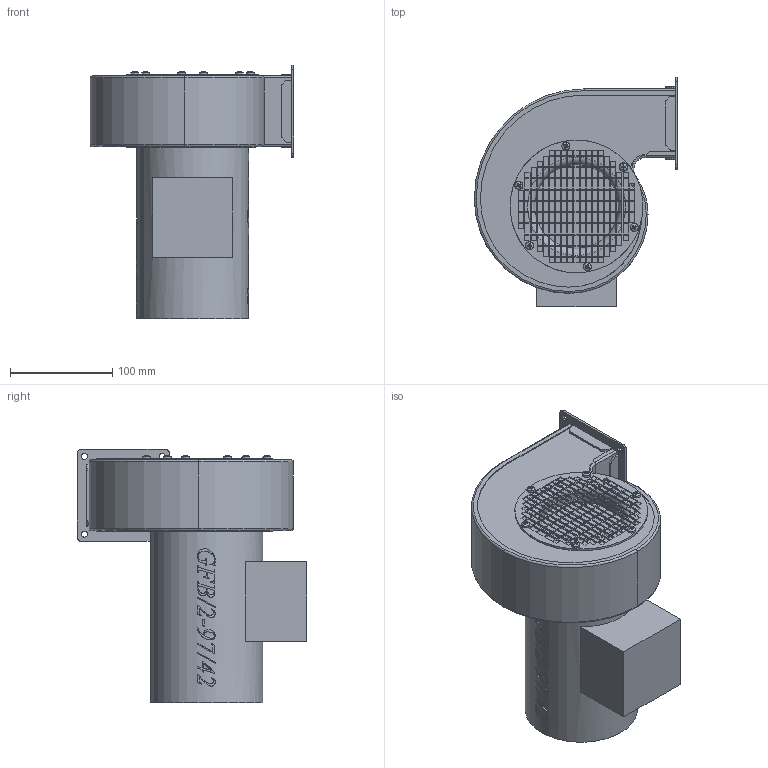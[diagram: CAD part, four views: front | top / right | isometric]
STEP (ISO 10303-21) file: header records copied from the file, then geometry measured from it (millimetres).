
FILE_DESCRIPTION(/* description */ (''),/* implementation_level */ '2;1');
FILE_NAME(/* name */ 'E:\Mariusz\Modele uproszczone\GFB\GFB_2_97_42 LG270 45030020\GFB_2_97_42 LG270 45030020\GFB_2_97_42 LG270 45030020.stp',/* time_stamp */ '2019-01-10T11:39:48+01:00',/* author */ ('M.Janczarek'),/* organization */ (''),/* preprocessor_version */ 'ST-DEVELOPER v16.13',/* originating_system */ 'Autodesk Inventor 2018',/* authorisation */ '');
FILE_SCHEMA (('AUTOMOTIVE_DESIGN { 1 0 10303 214 3 1 1 }'));
Products named in the file (1): GFB_2_97_42 LG270 45030020
Bounding box: 199 x 224.5 x 248 mm (x, y, z)
Volume: 3801751.3 mm3; surface area: 207947.7 mm2
Topology: 1 solids, 1 shells, 1564 faces, 4438 edges, 2919 vertices
Faces by surface type: plane 1000, bspline 349, cylinder 90, cone 84, torus 35, sphere 6
Full cylindrical faces by diameter (mm): 4.2 x6, 6 x4, 82 x1, 109.6 x1, 130 x1
Entity records: 59061 total; most frequent: CARTESIAN_POINT 19282, ORIENTED_EDGE 8760, DIRECTION 6580, EDGE_CURVE 4380, LINE 2946, VECTOR 2946, VERTEX_POINT 2891, EDGE_LOOP 1905
